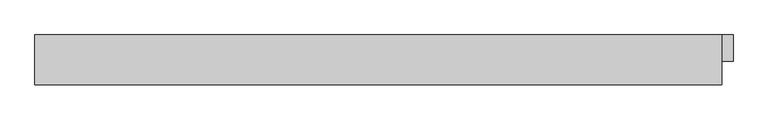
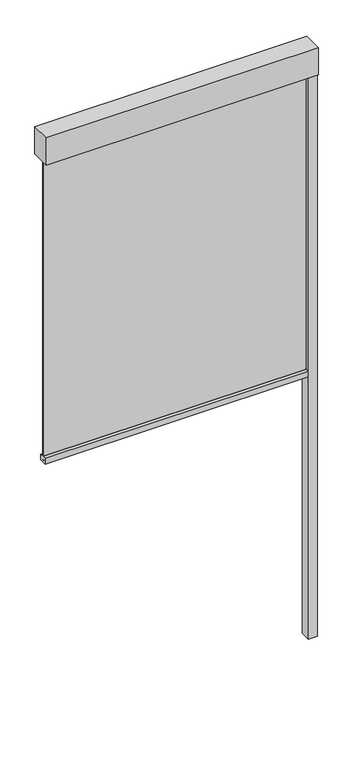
"""IFC4 building model written with IfcOpenShell, lengths in millimetres: proxy geometry, Renson_Fixscreen_Minimal_CW50_Middle : For curtain wall - Middle element - Access downwards - Fabric close to the window."""

from ifc_helpers import new_model, si_unit, point, frame, frame_2d, origin, origin_with_axes, place, context, project, spatial, polyline, circle_curve, trimmed, segment, composite_curve, outline, extrude, source, transform, mapped, element, save


def generic_models_8495b7db(model_context):
    return source(origin(), model_context, "Body", "SweptSolid", [
        extrude(outline(polyline([(530.0, -751.5959909), (480.0, -751.5959909), (480.0, -693.5959909), (530.0, -693.5959909), (530.0, -751.5959909)])), origin_with_axes(), (0.0, 0.0, 1.0), 3340.0),
        extrude(outline(polyline([(-1010.0, -693.5959909), (505.0, -693.5959909), (505.0, -803.5959909), (-1010.0, -803.5959909), (-1010.0, -693.5959909)])), frame((0.0, 0.0, 3340.0), z_axis=(0.0, 0.0, 1.0), x_axis=(1.0, 0.0, 0.0)), (0.0, 0.0, 1.0), 160.0),
        extrude(outline(composite_curve([segment(polyline([(-708.5959909, 1540.0), (-749.0958874, 1540.0), (-749.0958874, 1574.1156826), (-731.9717779, 1575.0000198)]), True, "CONTINUOUS"), segment(trimmed(circle_curve(frame_2d((-731.9459909, 1574.5006852)), 0.5), [point((-731.9717779, 1575.0000198))], [point((-731.4459909, 1574.5006852))], False, "CARTESIAN"), True, "CONTINUOUS"), segment(polyline([(-731.4459909, 1574.5006852), (-731.4459909, 1573.5367989), (-732.7111292, 1573.5367989), (-731.9708257, 1569.0119223)]), True, "CONTINUOUS"), segment(trimmed(circle_curve(frame_2d((-771.4459909, 1562.5534911)), 40.0), [point((-731.9708257, 1569.0119223))], [point((-731.4459909, 1562.5534911))], False, "CARTESIAN"), True, "CONTINUOUS"), segment(polyline([(-731.4459909, 1562.5534911), (-731.4459909, 1554.5006852)]), True, "CONTINUOUS"), segment(trimmed(circle_curve(frame_2d((-729.4459909, 1554.5006852)), 2.0), [point((-731.4459909, 1554.5006852))], [point((-729.4459909, 1552.5006852))], True, "CARTESIAN"), True, "CONTINUOUS"), segment(polyline([(-729.4459909, 1552.5006852), (-727.7459909, 1552.5006852)]), True, "CONTINUOUS"), segment(trimmed(circle_curve(frame_2d((-727.7459909, 1554.5006852)), 2.0), [point((-727.7459909, 1552.5006852))], [point((-725.7459909, 1554.5006852))], True, "CARTESIAN"), True, "CONTINUOUS"), segment(polyline([(-725.7459909, 1554.5006852), (-725.7459909, 1562.5534911)]), True, "CONTINUOUS"), segment(trimmed(circle_curve(frame_2d((-685.7459909, 1562.5534911)), 40.0), [point((-725.7459909, 1562.5534911))], [point((-725.221156, 1569.0119223))], False, "CARTESIAN"), True, "CONTINUOUS"), segment(polyline([(-725.221156, 1569.0119223), (-724.4808525, 1573.5367989), (-725.7459909, 1573.5367989), (-725.7459909, 1574.5006852)]), True, "CONTINUOUS"), segment(trimmed(circle_curve(frame_2d((-725.2459909, 1574.5006852)), 0.5), [point((-725.7459909, 1574.5006852))], [point((-725.2194276, 1574.9999791))], False, "CARTESIAN"), True, "CONTINUOUS"), segment(polyline([(-725.2194276, 1574.9999791), (-708.5959909, 1574.1156826), (-708.5959909, 1540.0)]), True, "CONTINUOUS")], self_intersect=False)), frame((-985.0, 0.0, 0.0), z_axis=(1.0, 0.0, 0.0), x_axis=(0.0, 1.0, 0.0)), (0.0, 0.0, 1.0), 1465.0),
        extrude(outline(polyline([(-985.0, -730.0959909), (-985.0, -727.0959909), (480.0, -727.0959909), (480.0, -730.0959909), (-985.0, -730.0959909)])), frame((0.0, 0.0, 1552.5006852), z_axis=(0.0, 0.0, 1.0), x_axis=(1.0, 0.0, 0.0)), (0.0, 0.0, 1.0), 1787.4993148),
    ])


if __name__ == "__main__":
    model = new_model("IFC4")
    model_context = context("Model", 3, world=origin())
    ifc_project = project(units=[si_unit("LENGTHUNIT", "METRE", prefix="MILLI")], contexts=[model_context])
    site = spatial("IfcSite", under=ifc_project)
    building = spatial("IfcBuilding", under=site)
    placement = place(None, origin())
    generic_models_shape = generic_models_8495b7db(model_context)
    element("IfcBuildingElementProxy", 1, Name="Renson_Fixscreen_Minimal_CW50_Middle : For curtain wall - Middle element - Access downwards - Fabric close to the window", ObjectType="Renson_Fixscreen_Minimal_CW50_Middle : For curtain wall - Middle element - Access downwards - Fabric close to the window", at=placement, inside=building, context=model_context, shape_type="MappedRepresentation", body=[
        mapped(generic_models_shape, transform((0.0, 0.0, 0.0), x_axis=(1.0, 0.0, 0.0), y_axis=(0.0, 1.0, 0.0), z_axis=(0.0, 0.0, 1.0))),
    ])
    save(model, "model.ifc")
